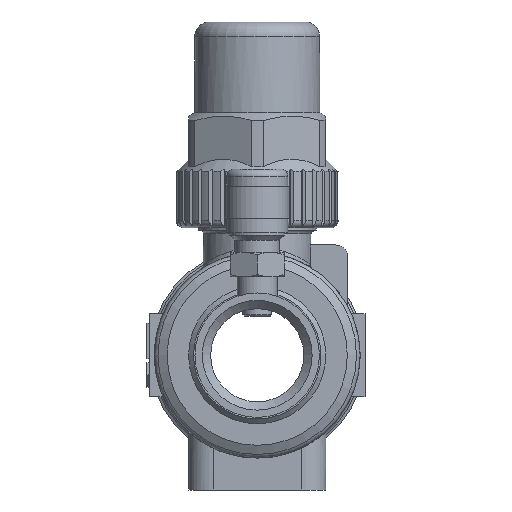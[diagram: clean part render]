
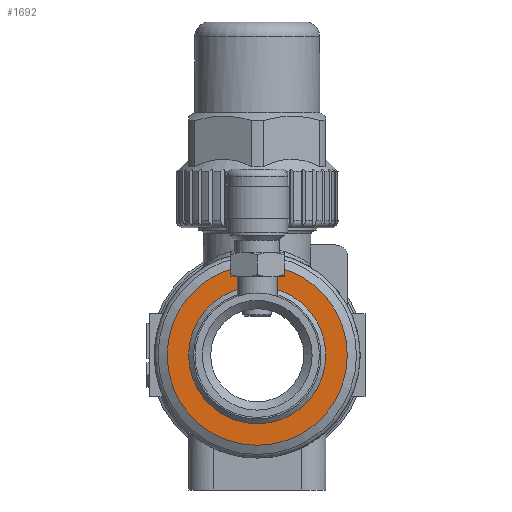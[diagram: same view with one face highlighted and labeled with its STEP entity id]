
A CAD part, left-side view. The second image highlights one B-rep face of the part: STEP entity #1692.
In plain terms, the highlighted planar face has unit normal (-1, 0, 0).
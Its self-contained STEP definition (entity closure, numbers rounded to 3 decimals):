
#1151=FACE_BOUND('',#2725,.T.);
#1383=PLANE('',#8674);
#1692=ADVANCED_FACE('',(#2270,#1151),#1383,.F.);
#2270=FACE_OUTER_BOUND('',#2724,.T.);
#2724=EDGE_LOOP('',(#5285));
#2725=EDGE_LOOP('',(#5286));
#3147=CIRCLE('',#8455,18.388);
#3211=CIRCLE('',#8672,14.);
#5285=ORIENTED_EDGE('',*,*,#7291,.T.);
#5286=ORIENTED_EDGE('',*,*,#7586,.F.);
#6557=VERTEX_POINT('',#11714);
#6719=VERTEX_POINT('',#12646);
#7291=EDGE_CURVE('',#6557,#6557,#3147,.T.);
#7586=EDGE_CURVE('',#6719,#6719,#3211,.T.);
#8455=AXIS2_PLACEMENT_3D('',#11713,#9472,#9473);
#8672=AXIS2_PLACEMENT_3D('',#12645,#10125,#10126);
#8674=AXIS2_PLACEMENT_3D('',#12648,#10129,#10130);
#9472=DIRECTION('',(-1.,0.,0.));
#9473=DIRECTION('',(0.,0.,-1.));
#10125=DIRECTION('',(-1.,0.,0.));
#10126=DIRECTION('',(0.,0.,1.));
#10129=DIRECTION('',(1.,0.,0.));
#10130=DIRECTION('',(0.,0.,-1.));
#11713=CARTESIAN_POINT('',(-19.544,0.,0.));
#11714=CARTESIAN_POINT('',(-19.544,0.,-18.388));
#12645=CARTESIAN_POINT('',(-19.544,0.,0.));
#12646=CARTESIAN_POINT('',(-19.544,0.,14.));
#12648=CARTESIAN_POINT('',(-19.544,0.,18.708));
